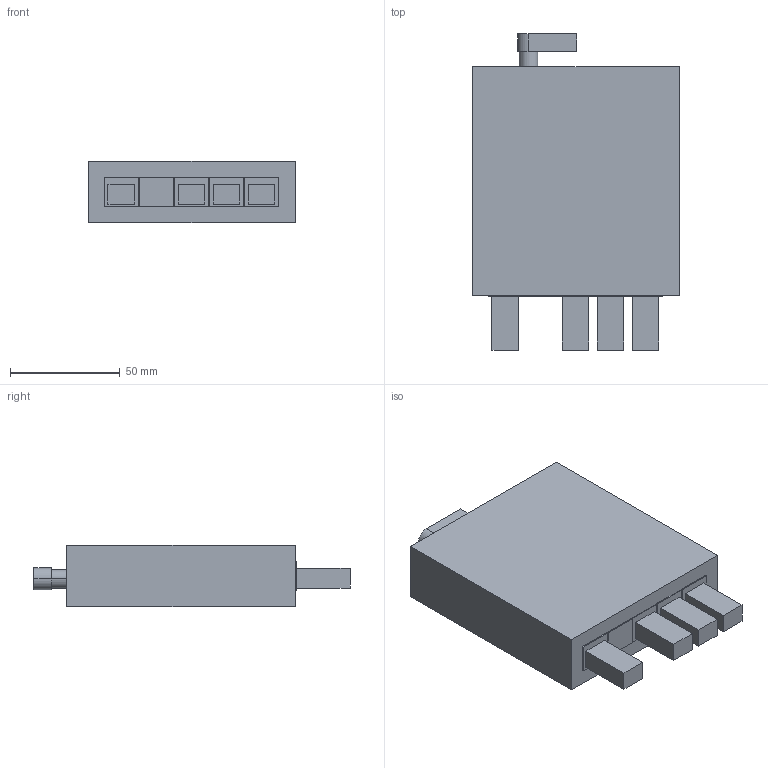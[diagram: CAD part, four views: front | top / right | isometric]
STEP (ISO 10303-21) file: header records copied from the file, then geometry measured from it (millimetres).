
FILE_DESCRIPTION(/* description */ ('VariCAD 2010-1.04 AP-203'),/* implementation_level */ '2;1');
FILE_NAME(/* name */ '0353-02-51',/* time_stamp */ '2010-01-25T18:19:23-07:00',/* author */ (''),/* organization */ (''),/* preprocessor_version */ 'ST-DEVELOPER v12',/* originating_system */ 'VariCAD 2010-1.04; kernel version (20090520)',/* authorisation */ '');
FILE_SCHEMA (('CONFIG_CONTROL_DESIGN'));
Length unit declared in the file: millimetre
Products named in the file (1): Part
Bounding box: 94 x 144 x 28 mm (x, y, z)
Volume: 285232.6 mm3; surface area: 37892.9 mm2
Topology: 2 solids, 2 shells, 112 faces, 273 edges, 184 vertices
Faces by surface type: plane 86, cylinder 24, cone 2
Entity records: 3329 total; most frequent: CARTESIAN_POINT 572, DIRECTION 553, ORIENTED_EDGE 546, EDGE_CURVE 273, LINE 223, VECTOR 223, VERTEX_POINT 184, AXIS2_PLACEMENT_3D 165
